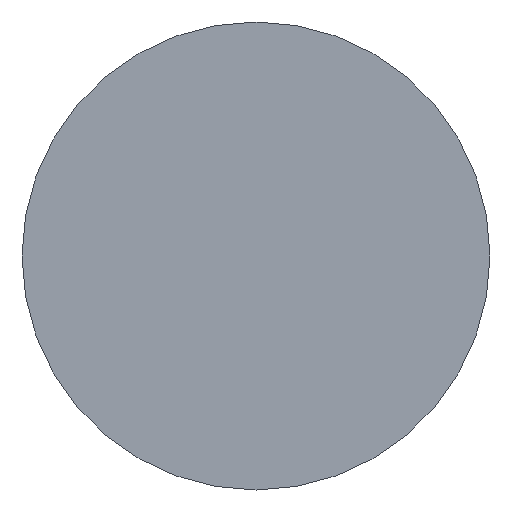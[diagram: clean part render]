
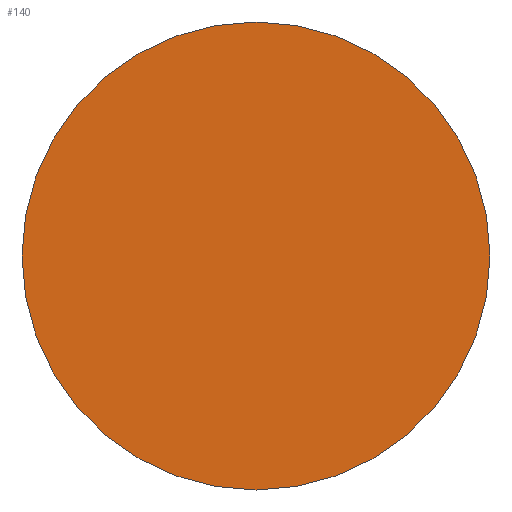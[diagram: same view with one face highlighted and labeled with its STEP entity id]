
A CAD part, front view. The second image highlights one B-rep face of the part: STEP entity #140.
In plain terms, the highlighted planar face has unit normal (0, -1, 0).
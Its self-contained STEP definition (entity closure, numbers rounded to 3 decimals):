
#31 = CYLINDRICAL_SURFACE('',#32,9.3);
#32 = AXIS2_PLACEMENT_3D('',#33,#34,#35);
#33 = CARTESIAN_POINT('',(0.,-30.,483.472));
#34 = DIRECTION('',(0.,1.,0.));
#35 = DIRECTION('',(0.,-0.,1.));
#56 = VERTEX_POINT('',#57);
#57 = CARTESIAN_POINT('',(0.,-30.,492.772));
#78 = EDGE_CURVE('',#56,#56,#79,.T.);
#79 = SURFACE_CURVE('',#80,(#85,#92),.PCURVE_S1.);
#80 = CIRCLE('',#81,9.3);
#81 = AXIS2_PLACEMENT_3D('',#82,#83,#84);
#82 = CARTESIAN_POINT('',(0.,-30.,483.472));
#83 = DIRECTION('',(0.,1.,0.));
#84 = DIRECTION('',(0.,-0.,1.));
#85 = PCURVE('',#31,#86);
#86 = DEFINITIONAL_REPRESENTATION('',(#87),#91);
#87 = LINE('',#88,#89);
#88 = CARTESIAN_POINT('',(0.,0.));
#89 = VECTOR('',#90,1.);
#90 = DIRECTION('',(1.,0.));
#91 = ( GEOMETRIC_REPRESENTATION_CONTEXT(2) 
PARAMETRIC_REPRESENTATION_CONTEXT() REPRESENTATION_CONTEXT('2D SPACE',''
  ) );
#92 = PCURVE('',#93,#98);
#93 = PLANE('',#94);
#94 = AXIS2_PLACEMENT_3D('',#95,#96,#97);
#95 = CARTESIAN_POINT('',(0.,-30.,483.472));
#96 = DIRECTION('',(0.,1.,0.));
#97 = DIRECTION('',(0.,-0.,1.));
#98 = DEFINITIONAL_REPRESENTATION('',(#99),#103);
#99 = CIRCLE('',#100,9.3);
#100 = AXIS2_PLACEMENT_2D('',#101,#102);
#101 = CARTESIAN_POINT('',(0.,0.));
#102 = DIRECTION('',(1.,0.));
#103 = ( GEOMETRIC_REPRESENTATION_CONTEXT(2) 
PARAMETRIC_REPRESENTATION_CONTEXT() REPRESENTATION_CONTEXT('2D SPACE',''
  ) );
#140 = ADVANCED_FACE('',(#141),#93,.F.);
#141 = FACE_BOUND('',#142,.T.);
#142 = EDGE_LOOP('',(#143));
#143 = ORIENTED_EDGE('',*,*,#78,.F.);
